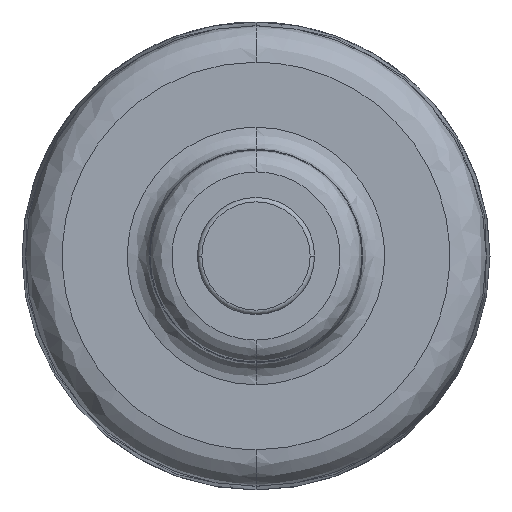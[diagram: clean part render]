
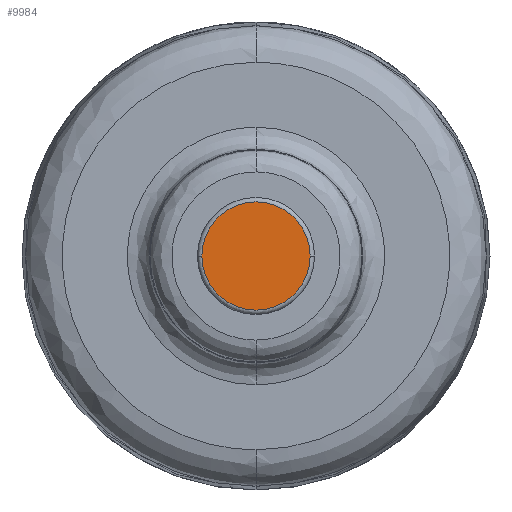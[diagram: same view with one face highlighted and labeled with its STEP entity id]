
A CAD part, front view. The second image highlights one B-rep face of the part: STEP entity #9984.
In plain terms, the highlighted planar face has unit normal (0, -1, 0).
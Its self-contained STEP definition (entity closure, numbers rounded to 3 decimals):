
#260 = CARTESIAN_POINT ( 'NONE',  ( 0., -107.5, 0. ) ) ;
#2199 = CARTESIAN_POINT ( 'NONE',  ( 0., -107.5, 0. ) ) ;
#2408 = DIRECTION ( 'NONE',  ( 0., -1., 0. ) ) ;
#4809 = EDGE_LOOP ( 'NONE', ( #20124, #13870 ) ) ;
#5213 = DIRECTION ( 'NONE',  ( 0., -1., 0. ) ) ;
#5528 = DIRECTION ( 'NONE',  ( 1., 0., 0. ) ) ;
#6017 = CIRCLE ( 'NONE', #6678, 3.7 ) ;
#6678 = AXIS2_PLACEMENT_3D ( 'NONE', #14632, #5213, #5528 ) ;
#8116 = DIRECTION ( 'NONE',  ( 1., 0., 0. ) ) ;
#9641 = AXIS2_PLACEMENT_3D ( 'NONE', #2199, #2408, #11855 ) ;
#9984 = ADVANCED_FACE ( 'NONE', ( #16287 ), #13494, .T. ) ;
#10849 = VERTEX_POINT ( 'NONE', #16894 ) ;
#11418 = EDGE_CURVE ( 'NONE', #19385, #10849, #6017, .T. ) ;
#11524 = DIRECTION ( 'NONE',  ( 0., -1., 0. ) ) ;
#11855 = DIRECTION ( 'NONE',  ( 1., 0., 0. ) ) ;
#12274 = EDGE_CURVE ( 'NONE', #10849, #19385, #18603, .T. ) ;
#13494 = PLANE ( 'NONE',  #9641 ) ;
#13870 = ORIENTED_EDGE ( 'NONE', *, *, #11418, .T. ) ;
#14632 = CARTESIAN_POINT ( 'NONE',  ( 0., -107.5, 0. ) ) ;
#16287 = FACE_OUTER_BOUND ( 'NONE', #4809, .T. ) ;
#16894 = CARTESIAN_POINT ( 'NONE',  ( 3.7, -107.5, 0. ) ) ;
#17929 = AXIS2_PLACEMENT_3D ( 'NONE', #260, #11524, #8116 ) ;
#18603 = CIRCLE ( 'NONE', #17929, 3.7 ) ;
#18859 = CARTESIAN_POINT ( 'NONE',  ( -3.7, -107.5, 0. ) ) ;
#19385 = VERTEX_POINT ( 'NONE', #18859 ) ;
#20124 = ORIENTED_EDGE ( 'NONE', *, *, #12274, .T. ) ;
